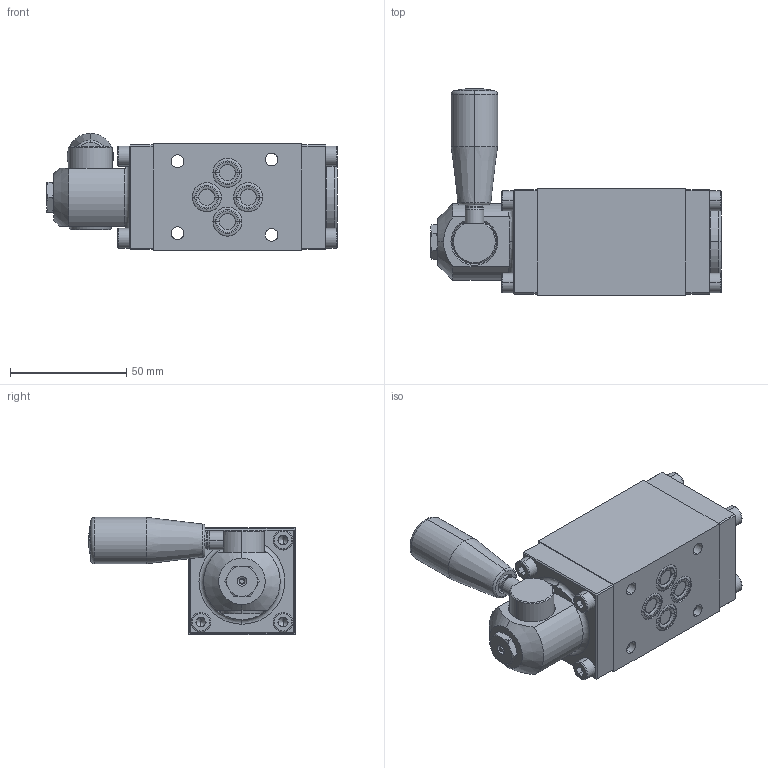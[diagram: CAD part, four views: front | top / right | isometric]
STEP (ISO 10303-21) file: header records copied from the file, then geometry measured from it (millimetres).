
FILE_DESCRIPTION (( 'STEP AP214' ), '1' );
FILE_NAME ('AG32061a.STEP', '2019-09-03T09:10:00', ( '' ), ( '' ), 'SwSTEP 2.0', 'SolidWorks 2018', '' );
FILE_SCHEMA (( 'AUTOMOTIVE_DESIGN' ));
Length unit declared in the file: millimetre
Products named in the file (1): AG32061a
Bounding box: 125.1 x 89 x 50.5 mm (x, y, z)
Volume: 216585 mm3; surface area: 39033.7 mm2
Topology: 6 solids, 42 shells, 756 faces, 1723 edges, 1073 vertices
Faces by surface type: plane 300, cylinder 220, cone 102, bspline 72, torus 60, sphere 2
Entity records: 31653 total; most frequent: CARTESIAN_POINT 6604, DIRECTION 3508, ORIENTED_EDGE 3386, EDGE_CURVE 1693, AXIS2_PLACEMENT_3D 1393, VERTEX_POINT 1073, EDGE_LOOP 842, UNCERTAINTY_MEASURE_WITH_UNIT 764
